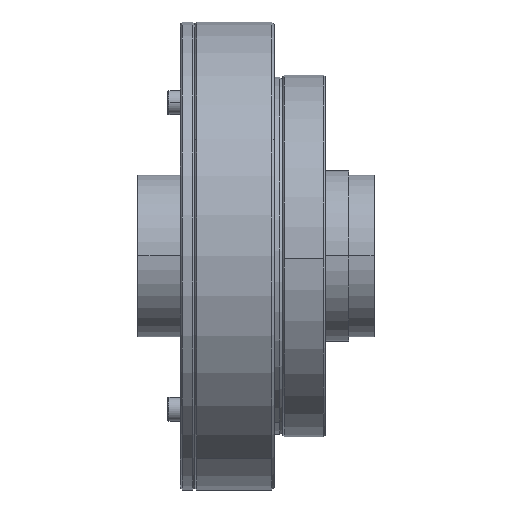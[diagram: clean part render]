
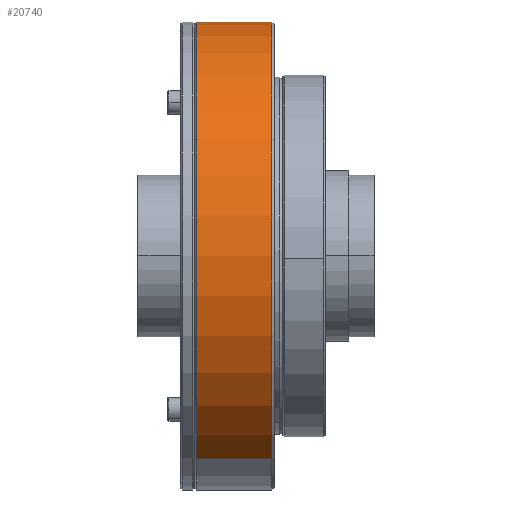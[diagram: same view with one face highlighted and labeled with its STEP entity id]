
A CAD part, top view. The second image highlights one B-rep face of the part: STEP entity #20740.
In plain terms, the highlighted cylindrical face has radius 55 mm (diameter 110 mm), a partial arc.
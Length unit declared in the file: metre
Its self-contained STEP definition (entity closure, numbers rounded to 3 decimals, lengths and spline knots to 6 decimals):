
#85 = DIRECTION ( 'NONE',  ( 0., 0.866, -0.5 ) ) ;
#1152 = DIRECTION ( 'NONE',  ( -1., 0., 0. ) ) ;
#2152 = CARTESIAN_POINT ( 'NONE',  ( 0.0138, 0.047631, -0.0275 ) ) ;
#2184 = VERTEX_POINT ( 'NONE', #3554 ) ;
#3047 = AXIS2_PLACEMENT_3D ( 'NONE', #24036, #4806, #13362 ) ;
#3554 = CARTESIAN_POINT ( 'NONE',  ( 0.0138, -0.047631, 0.0275 ) ) ;
#3627 = LINE ( 'NONE', #18615, #19059 ) ;
#4439 = CARTESIAN_POINT ( 'NONE',  ( 0.0138, 0., 0. ) ) ;
#4511 = EDGE_LOOP ( 'NONE', ( #6163, #25945, #17282, #19143, #5709, #24633 ) ) ;
#4806 = DIRECTION ( 'NONE',  ( 1., 0., 0. ) ) ;
#5159 = CARTESIAN_POINT ( 'NONE',  ( 0.0315, 0.047631, -0.0275 ) ) ;
#5421 = VECTOR ( 'NONE', #25938, 1. ) ;
#5573 = DIRECTION ( 'NONE',  ( -1., 0., 0. ) ) ;
#5709 = ORIENTED_EDGE ( 'NONE', *, *, #13370, .T. ) ;
#5822 = DIRECTION ( 'NONE',  ( -1., 0., 0. ) ) ;
#6163 = ORIENTED_EDGE ( 'NONE', *, *, #10528, .F. ) ;
#6519 = AXIS2_PLACEMENT_3D ( 'NONE', #4439, #26049, #17486 ) ;
#7645 = DIRECTION ( 'NONE',  ( 0., 0.866, -0.5 ) ) ;
#7846 = VERTEX_POINT ( 'NONE', #8181 ) ;
#8181 = CARTESIAN_POINT ( 'NONE',  ( 0.0315, -0.047631, 0.0275 ) ) ;
#8427 = VERTEX_POINT ( 'NONE', #9080 ) ;
#9080 = CARTESIAN_POINT ( 'NONE',  ( 0.0138, 0.0275, 0.047631 ) ) ;
#10000 = DIRECTION ( 'NONE',  ( 0., 0.866, -0.5 ) ) ;
#10220 = VERTEX_POINT ( 'NONE', #2152 ) ;
#10528 = EDGE_CURVE ( 'NONE', #7846, #2184, #23282, .T. ) ;
#12290 = CIRCLE ( 'NONE', #26171, 0.055 ) ;
#13362 = DIRECTION ( 'NONE',  ( 0., 0.866, -0.5 ) ) ;
#13370 = EDGE_CURVE ( 'NONE', #10220, #8427, #15131, .T. ) ;
#13629 = VERTEX_POINT ( 'NONE', #23439 ) ;
#15131 = CIRCLE ( 'NONE', #3047, 0.055 ) ;
#15268 = CARTESIAN_POINT ( 'NONE',  ( 0.008033, -0.047631, 0.0275 ) ) ;
#16577 = CARTESIAN_POINT ( 'NONE',  ( 0.0315, 0., 0. ) ) ;
#17282 = ORIENTED_EDGE ( 'NONE', *, *, #26213, .T. ) ;
#17486 = DIRECTION ( 'NONE',  ( 0., 0.866, -0.5 ) ) ;
#17873 = AXIS2_PLACEMENT_3D ( 'NONE', #18864, #5822, #7645 ) ;
#18577 = CYLINDRICAL_SURFACE ( 'NONE', #17873, 0.055 ) ;
#18615 = CARTESIAN_POINT ( 'NONE',  ( 0.008033, 0.047631, -0.0275 ) ) ;
#18864 = CARTESIAN_POINT ( 'NONE',  ( 0.008033, 0., 0. ) ) ;
#19059 = VECTOR ( 'NONE', #5573, 1. ) ;
#19143 = ORIENTED_EDGE ( 'NONE', *, *, #25268, .T. ) ;
#19249 = VERTEX_POINT ( 'NONE', #5159 ) ;
#20740 = ADVANCED_FACE ( 'NONE', ( #26873 ), #18577, .T. ) ;
#21340 = AXIS2_PLACEMENT_3D ( 'NONE', #21693, #25911, #85 ) ;
#21693 = CARTESIAN_POINT ( 'NONE',  ( 0.0315, 0., 0. ) ) ;
#23148 = CIRCLE ( 'NONE', #21340, 0.055 ) ;
#23282 = LINE ( 'NONE', #15268, #5421 ) ;
#23439 = CARTESIAN_POINT ( 'NONE',  ( 0.0315, 0.0275, 0.047631 ) ) ;
#24036 = CARTESIAN_POINT ( 'NONE',  ( 0.0138, 0., 0. ) ) ;
#24460 = EDGE_CURVE ( 'NONE', #7846, #13629, #12290, .T. ) ;
#24633 = ORIENTED_EDGE ( 'NONE', *, *, #25418, .T. ) ;
#25268 = EDGE_CURVE ( 'NONE', #19249, #10220, #3627, .T. ) ;
#25418 = EDGE_CURVE ( 'NONE', #8427, #2184, #27577, .T. ) ;
#25911 = DIRECTION ( 'NONE',  ( -1., 0., 0. ) ) ;
#25938 = DIRECTION ( 'NONE',  ( -1., 0., 0. ) ) ;
#25945 = ORIENTED_EDGE ( 'NONE', *, *, #24460, .T. ) ;
#26049 = DIRECTION ( 'NONE',  ( 1., 0., 0. ) ) ;
#26171 = AXIS2_PLACEMENT_3D ( 'NONE', #16577, #1152, #10000 ) ;
#26213 = EDGE_CURVE ( 'NONE', #13629, #19249, #23148, .T. ) ;
#26873 = FACE_OUTER_BOUND ( 'NONE', #4511, .T. ) ;
#27577 = CIRCLE ( 'NONE', #6519, 0.055 ) ;
